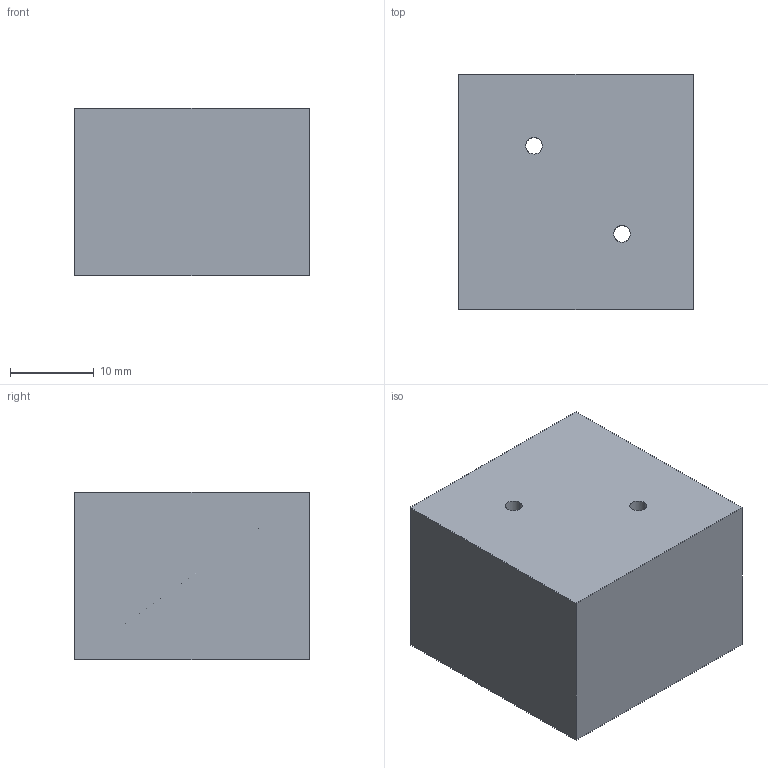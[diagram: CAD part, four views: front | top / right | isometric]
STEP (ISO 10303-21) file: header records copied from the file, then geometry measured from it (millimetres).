
FILE_DESCRIPTION (( 'STEP AP203' ), '1' );
FILE_NAME ('FT30ES02.STEP', '2026-06-26T01:13:46', ( 'USER' ), ( '' ), 'SwSTEP 2.0', 'SolidWorks 2023', '' );
FILE_SCHEMA (( 'CONFIG_CONTROL_DESIGN' ));
Length unit declared in the file: millimetre
Products named in the file (1): FT30ES02
Bounding box: 28 x 28 x 20 mm (x, y, z)
Volume: 12991.1 mm3; surface area: 4738 mm2
Topology: 1 solids, 1 shells, 40 faces, 95 edges, 55 vertices
Faces by surface type: cylinder 22, plane 10, cone 8
Entity records: 1346 total; most frequent: CARTESIAN_POINT 352, DIRECTION 192, ORIENTED_EDGE 190, EDGE_CURVE 95, AXIS2_PLACEMENT_3D 75, VERTEX_POINT 55, EDGE_LOOP 48, VECTOR 42
